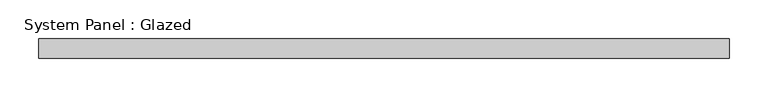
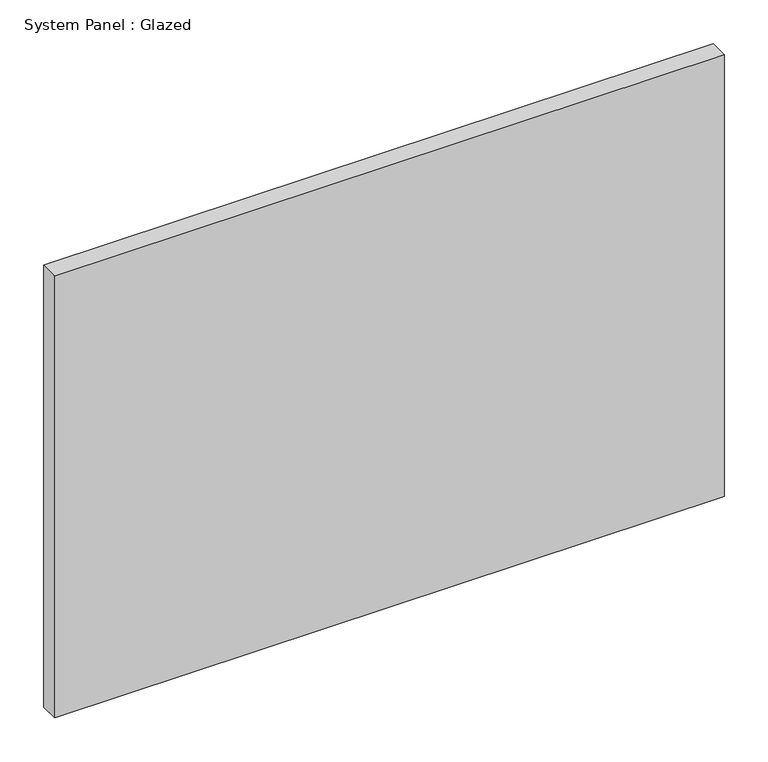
"""IFC4 building model written with IfcOpenShell, lengths in millimetres: plate geometry, System Panel : Glazed."""

from ifc_helpers import new_model, si_unit, origin, origin_with_axes, place, context, project, spatial, polyline, outline, extrude, source, transform, mapped, element, save


def system_panel_glazed_b4a5a46e(model_context):
    return source(origin(), model_context, "Body", "SweptSolid", [
        extrude(outline(polyline([(442.5, -72.5), (-442.5, -72.5), (-442.5, -47.5), (442.5, -47.5), (442.5, -72.5)])), origin_with_axes(), (0.0, 0.0, 1.0), 617.5961894),
    ])


if __name__ == "__main__":
    model = new_model("IFC4")
    model_context = context("Model", 3, world=origin())
    ifc_project = project(units=[si_unit("LENGTHUNIT", "METRE", prefix="MILLI")], contexts=[model_context])
    site = spatial("IfcSite", under=ifc_project)
    building = spatial("IfcBuilding", under=site)
    placement = place(None, origin())
    system_panel_glazed_shape = system_panel_glazed_b4a5a46e(model_context)
    element("IfcPlate", 1, ObjectType="System Panel : Glazed", at=placement, inside=building, context=model_context, shape_type="MappedRepresentation", body=[
        mapped(system_panel_glazed_shape, transform((0.0, 0.0, 0.0), x_axis=(1.0, 0.0, 0.0), y_axis=(0.0, 1.0, 0.0), z_axis=(0.0, 0.0, 1.0))),
    ])
    save(model, "model.ifc")
